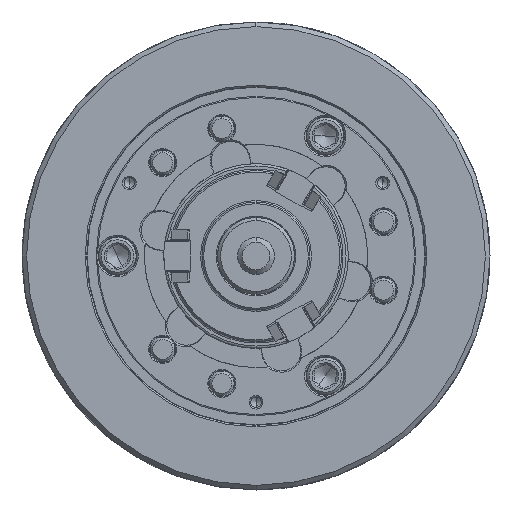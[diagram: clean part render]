
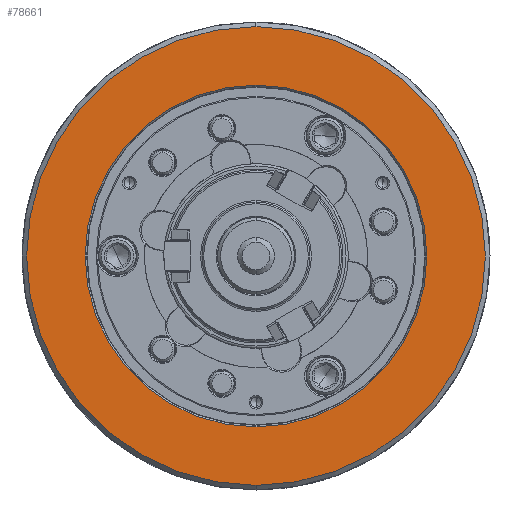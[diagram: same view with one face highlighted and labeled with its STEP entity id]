
A CAD part, left-side view. The second image highlights one B-rep face of the part: STEP entity #78661.
In plain terms, the highlighted planar face has unit normal (-1, 0, 0).
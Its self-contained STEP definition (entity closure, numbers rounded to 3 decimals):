
#1377 = AXIS2_PLACEMENT_3D ( 'NONE', #33894, #72172, #118011 ) ;
#6929 = AXIS2_PLACEMENT_3D ( 'NONE', #55316, #57161, #105489 ) ;
#7411 = AXIS2_PLACEMENT_3D ( 'NONE', #92191, #22588, #13172 ) ;
#9764 = CARTESIAN_POINT ( 'NONE',  ( -106., 0., -111. ) ) ;
#10658 = VERTEX_POINT ( 'NONE', #37928 ) ;
#12384 = ORIENTED_EDGE ( 'NONE', *, *, #112021, .F. ) ;
#13172 = DIRECTION ( 'NONE',  ( 0., 0., -1. ) ) ;
#17726 = VERTEX_POINT ( 'NONE', #104831 ) ;
#21735 = CIRCLE ( 'NONE', #29777, 111. ) ;
#22588 = DIRECTION ( 'NONE',  ( 1., 0., 0. ) ) ;
#29777 = AXIS2_PLACEMENT_3D ( 'NONE', #47277, #77983, #30334 ) ;
#30228 = CIRCLE ( 'NONE', #94280, 149. ) ;
#30334 = DIRECTION ( 'NONE',  ( 0., 0., -1. ) ) ;
#31823 = EDGE_CURVE ( 'NONE', #10658, #108623, #30228, .T. ) ;
#32389 = ORIENTED_EDGE ( 'NONE', *, *, #31823, .F. ) ;
#33894 = CARTESIAN_POINT ( 'NONE',  ( -106., 0., 0. ) ) ;
#34795 = EDGE_LOOP ( 'NONE', ( #12384, #32389 ) ) ;
#37701 = FACE_BOUND ( 'NONE', #70554, .T. ) ;
#37928 = CARTESIAN_POINT ( 'NONE',  ( -106., 0., 149. ) ) ;
#47277 = CARTESIAN_POINT ( 'NONE',  ( -106., 0., 0. ) ) ;
#55316 = CARTESIAN_POINT ( 'NONE',  ( -106., -111., 0. ) ) ;
#55597 = VERTEX_POINT ( 'NONE', #9764 ) ;
#57161 = DIRECTION ( 'NONE',  ( 1., 0., 0. ) ) ;
#65954 = FACE_OUTER_BOUND ( 'NONE', #34795, .T. ) ;
#67581 = ORIENTED_EDGE ( 'NONE', *, *, #89760, .T. ) ;
#70554 = EDGE_LOOP ( 'NONE', ( #67581, #99401 ) ) ;
#72172 = DIRECTION ( 'NONE',  ( 1., 0., 0. ) ) ;
#72954 = DIRECTION ( 'NONE',  ( 1., 0., 0. ) ) ;
#77983 = DIRECTION ( 'NONE',  ( 1., 0., 0. ) ) ;
#78661 = ADVANCED_FACE ( 'NONE', ( #65954, #37701 ), #85431, .F. ) ;
#79464 = CIRCLE ( 'NONE', #1377, 149. ) ;
#81137 = CARTESIAN_POINT ( 'NONE',  ( -106., 0., 0. ) ) ;
#85431 = PLANE ( 'NONE',  #6929 ) ;
#87533 = EDGE_CURVE ( 'NONE', #55597, #17726, #109587, .T. ) ;
#89760 = EDGE_CURVE ( 'NONE', #17726, #55597, #21735, .T. ) ;
#91821 = DIRECTION ( 'NONE',  ( 0., 0., -1. ) ) ;
#92191 = CARTESIAN_POINT ( 'NONE',  ( -106., 0., 0. ) ) ;
#94280 = AXIS2_PLACEMENT_3D ( 'NONE', #81137, #72954, #91821 ) ;
#99401 = ORIENTED_EDGE ( 'NONE', *, *, #87533, .T. ) ;
#104831 = CARTESIAN_POINT ( 'NONE',  ( -106., 0., 111. ) ) ;
#105489 = DIRECTION ( 'NONE',  ( 0., 0., -1. ) ) ;
#108623 = VERTEX_POINT ( 'NONE', #121179 ) ;
#109587 = CIRCLE ( 'NONE', #7411, 111. ) ;
#112021 = EDGE_CURVE ( 'NONE', #108623, #10658, #79464, .T. ) ;
#118011 = DIRECTION ( 'NONE',  ( 0., 0., -1. ) ) ;
#121179 = CARTESIAN_POINT ( 'NONE',  ( -106., 0., -149. ) ) ;
